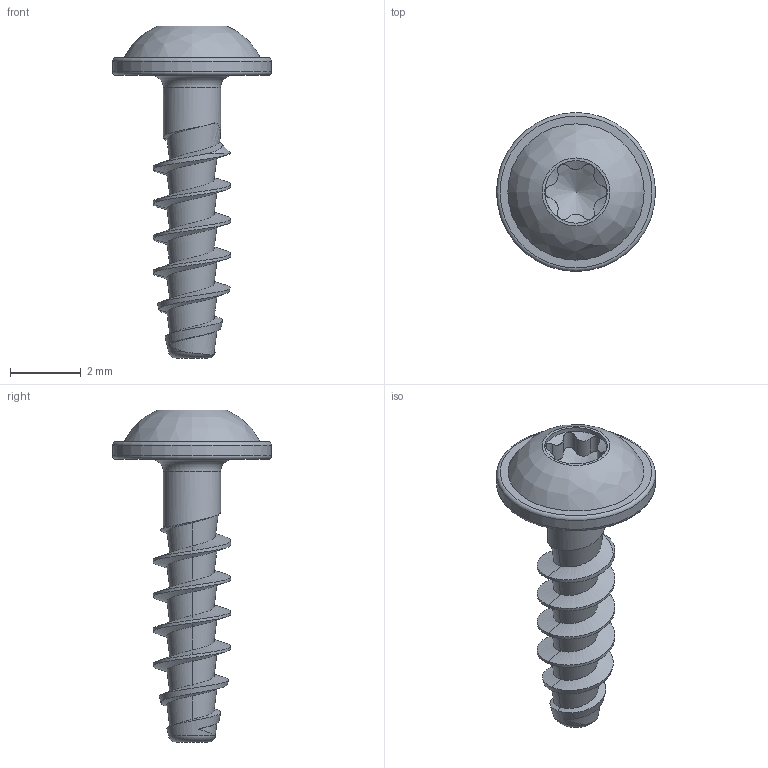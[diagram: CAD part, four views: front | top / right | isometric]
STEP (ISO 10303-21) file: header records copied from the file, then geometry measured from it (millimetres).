
FILE_DESCRIPTION(/* description */ (''),/* implementation_level */ '2;1');
FILE_NAME(/* name */ 'KN1038-STS-22x8-T6.step',/* time_stamp */ '2017-10-12T15:19:12+02:00',/* author */ (''),/* organization */ (''),/* preprocessor_version */ 'ST-DEVELOPER v16',/* originating_system */ 'SIEMENS PLM Software NX 10.0',/* authorisation */ '');
FILE_SCHEMA (('AUTOMOTIVE_DESIGN { 1 0 10303 214 3 1 1 1 }'));
Length unit declared in the file: millimetre
Products named in the file (1): KN1038-STS-22x8-T6
Bounding box: 4.5 x 4.5 x 9.4 mm (x, y, z)
Volume: 28.3 mm3; surface area: 100.5 mm2
Topology: 1 solids, 1 shells, 50 faces, 124 edges, 78 vertices
Faces by surface type: bspline 22, cylinder 16, cone 4, torus 4, plane 4
Full cylindrical faces by diameter (mm): 1.62 x1, 1.77 x1, 4.5 x1
Entity records: 3181 total; most frequent: CARTESIAN_POINT 2236, ORIENTED_EDGE 214, DIRECTION 118, EDGE_CURVE 107, VERTEX_POINT 72, EDGE_LOOP 62, B_SPLINE_CURVE_WITH_KNOTS 62, ADVANCED_FACE 50
